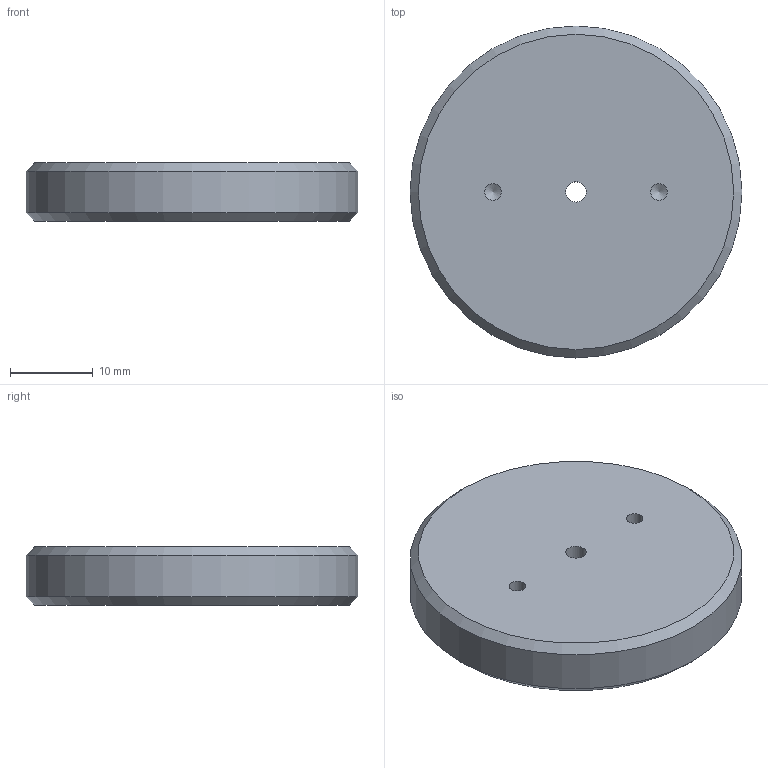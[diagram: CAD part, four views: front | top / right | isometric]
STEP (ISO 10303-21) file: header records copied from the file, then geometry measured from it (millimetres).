
FILE_DESCRIPTION(/* description */ ('Spring Seat'),/* implementation_level */ '2;1');
FILE_NAME(/* name */ 'Z:\Werkstatt Server\Projekte\Atlas\Entwicklung u. Konstruktion\Konstruktion\CAD Daten\ITkPixToolV2.0\Baremodule Jig\ITPTv2.01.00.03.stp',/* time_stamp */ '2021-08-06T14:37:43+02:00',/* author */ ('Tim Kanngießer'),/* organization */ (''),/* preprocessor_version */ 'ST-DEVELOPER v18.1',/* originating_system */ 'Autodesk Inventor 2022',/* authorisation */ '');
FILE_SCHEMA (('AUTOMOTIVE_DESIGN { 1 0 10303 214 3 1 1 }'));
Length unit declared in the file: millimetre
Products named in the file (1): ITPTv2.01.00.03
Bounding box: 40 x 40 x 7 mm (x, y, z)
Volume: 8223.7 mm3; surface area: 3590.3 mm2
Topology: 1 solids, 1 shells, 14 faces, 28 edges, 18 vertices
Faces by surface type: cylinder 6, cone 4, plane 4
Full cylindrical faces by diameter (mm): 2 x2, 2.459 x1, 11 x1, 17 x1, 40 x1
Entity records: 416 total; most frequent: DIRECTION 72, CARTESIAN_POINT 59, ORIENTED_EDGE 52, AXIS2_PLACEMENT_3D 31, EDGE_CURVE 26, EDGE_LOOP 20, VERTEX_POINT 18, CIRCLE 16
